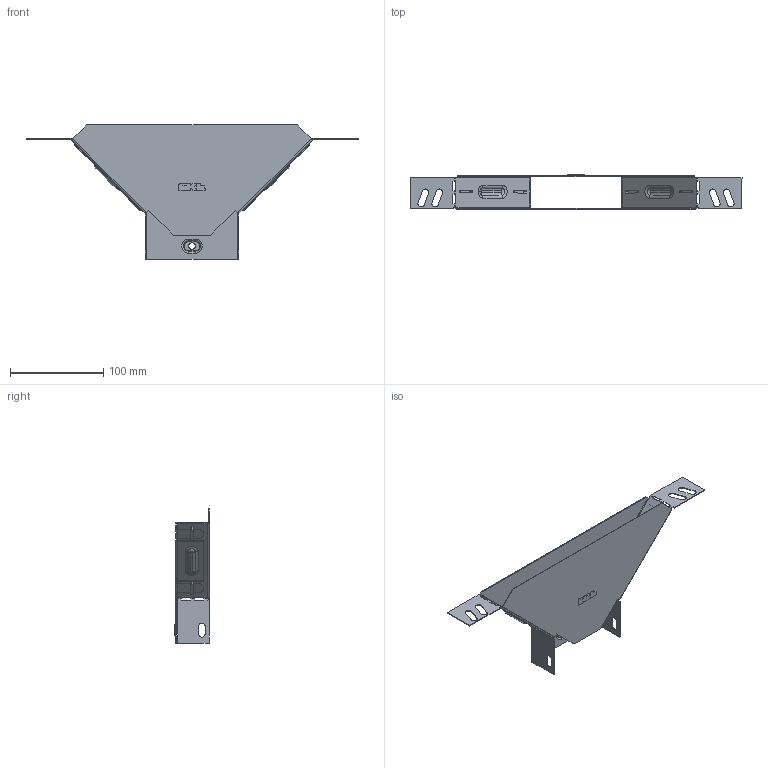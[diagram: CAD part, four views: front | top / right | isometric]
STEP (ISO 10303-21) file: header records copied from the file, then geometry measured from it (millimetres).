
FILE_DESCRIPTION (( 'STEP AP214' ), '1' );
FILE_NAME ('tn3510008_捘.STEP', '2019-06-10T07:58:21', ( '砐錪賧瘔蠈錪 Windows' ), ( '' ), 'SwSTEP 2.0', 'SolidWorks 2018', '' );
FILE_SCHEMA (( 'AUTOMOTIVE_DESIGN' ));
Length unit declared in the file: millimetre
Products named in the file (1): tn3510008_捘
Bounding box: 356.02 x 37.4 x 144 mm (x, y, z)
Volume: 45553.1 mm3; surface area: 116257.7 mm2
Topology: 2 solids, 2 shells, 528 faces, 1458 edges, 932 vertices
Faces by surface type: plane 326, cylinder 144, torus 40, bspline 18
Entity records: 17617 total; most frequent: CARTESIAN_POINT 3877, ORIENTED_EDGE 2916, DIRECTION 2792, EDGE_CURVE 1458, VECTOR 1074, LINE 1074, VERTEX_POINT 932, AXIS2_PLACEMENT_3D 859
